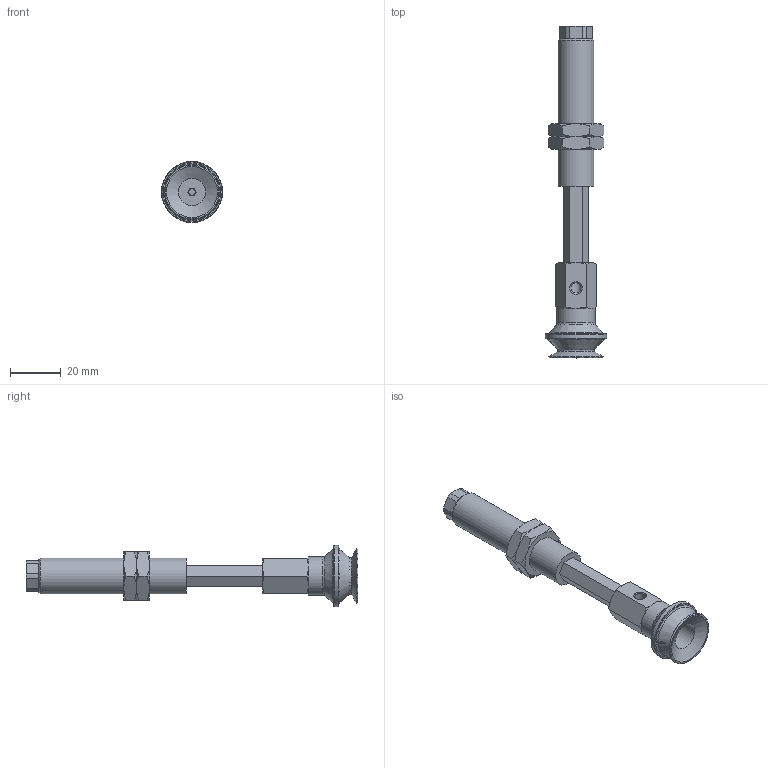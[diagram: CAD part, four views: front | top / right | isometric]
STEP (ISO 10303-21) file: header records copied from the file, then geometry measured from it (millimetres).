
FILE_DESCRIPTION(('STEP AP203'),'1');
FILE_NAME('.stp','2025-04-02T02:01:02',(' '),(' '),'Spatial InterOp 3D',' ',' ');
FILE_SCHEMA(('CONFIG_CONTROL_DESIGN'));
Length unit declared in the file: millimetre
Products named in the file (7): BNABPBYH-20-30-※; Adapter20-T-NAPB; CONNECTOR-20-30-PB; Nut-20-S-PB; NAPBTH-20-30-FBODY; NAPBTH-20-30-MBODY; BPBG-20-※
Assembly tree (7 placements, depth 2):
  BNABPBYH-20-30-※
    Adapter20-T-NAPB
    CONNECTOR-20-30-PB
    Nut-20-S-PB  x2
    NAPBTH-20-30-FBODY
    NAPBTH-20-30-MBODY
    BPBG-20-※
Bounding box: 24 x 130.5 x 24 mm (x, y, z)
Volume: 18876.5 mm3; surface area: 14449.7 mm2
Topology: 7 solids, 7 shells, 165 faces, 370 edges, 228 vertices
Faces by surface type: plane 79, cone 56, cylinder 21, torus 9
Full cylindrical faces by diameter (mm): 2.5 x1, 3 x1, 4.134 x3, 4.6 x1, 5 x2, 10.8 x1, 11 x1, 12.917 x2, 14 x1, 15 x1, 24 x1
Entity records: 4320 total; most frequent: CARTESIAN_POINT 984, DIRECTION 628, ORIENTED_EDGE 554, EDGE_CURVE 277, AXIS2_PLACEMENT_3D 253, EDGE_LOOP 198, VERTEX_POINT 191, FACE_OUTER_BOUND 163
